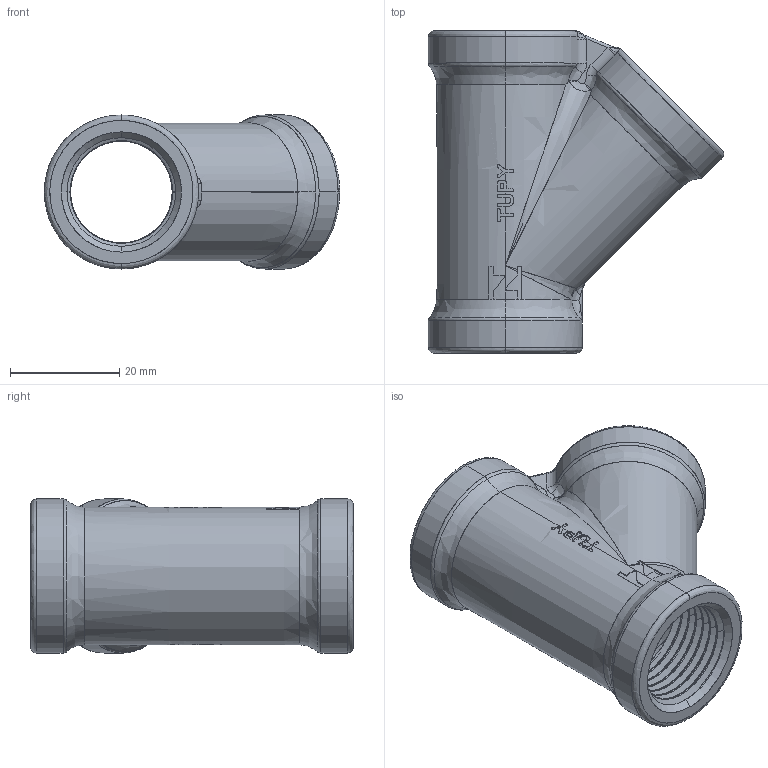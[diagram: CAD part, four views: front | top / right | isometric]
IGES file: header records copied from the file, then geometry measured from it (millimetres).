
Start section: SolidWorks IGES file using analytic representation for surfaces
Global section: file name: C:\Users\Joel Rosa\Desktop\Tubulação\12-54-XXX\12-54-004.IGS; native system: SolidWorks 2011; preprocessor: SolidWorks 2011; author: Joel Rosa; date: 121213.023819; units: millimetre
Bounding box: 54.06 x 59 x 28.2 mm (x, y, z)
Surface area: 14369.3 mm2 (no closed solid volume)
Topology: 0 solids, 0 shells, 432 faces, 3480 edges, 3460 vertices
Faces by surface type: bspline 296, revolution 136
